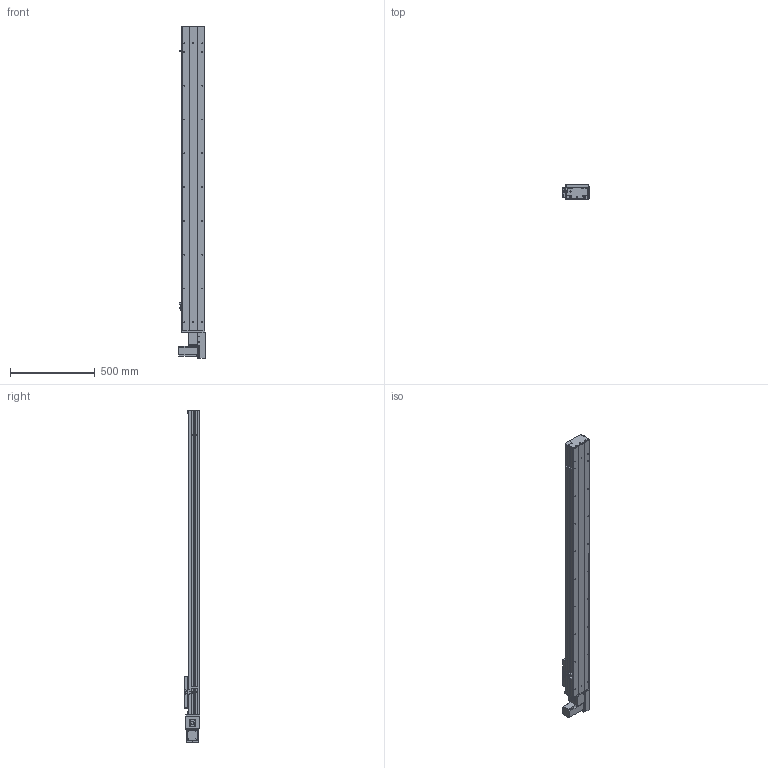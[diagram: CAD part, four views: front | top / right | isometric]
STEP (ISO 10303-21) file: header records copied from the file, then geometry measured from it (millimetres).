
FILE_DESCRIPTION (( 'STEP AP203' ), '1' );
FILE_NAME ('Y135CB-D90-S1500-BL-P400W.STEP', '2020-02-18T01:19:32', ( '微软用户' ), ( '微软中国' ), 'SwSTEP 2.0', 'SolidWorks 2017', '' );
FILE_SCHEMA (( 'CONFIG_CONTROL_DESIGN' ));
Length unit declared in the file: millimetre
Products named in the file (18): C-詩湍揤踡え-陔; 135CB---遴掛极.-; 135CB--詩湍-CE; Y10B-耜蚾蟀諉啣----; 35CB---喘謫眊楊擘啣; Y100-135俋离換覜ん--; Y俋欶BR----; Y10B--々湍喘謫眊--666; Y135C-陔俋离換覜結え-; 0B-埴倛裔啣; 5C--俋欶; 0B-源倛裔啣; C-雄赽釱--; 0B-萇儂楊擘啣; Y135CB-D90-S1500-BL-P400W; san松下电机400不带刹车----; 5CB --掛极耜裔啣-; Y135CB-耜裔
Assembly tree (21 placements, depth 2):
  Y135CB-D90-S1500-BL-P400W
    Y135CB-耜裔
    135CB---遴掛极.-
    35CB---喘謫眊楊擘啣
    Y10B--々湍喘謫眊--666
    Y10B-耜蚾蟀諉啣----
    Y俋欶BR----
    0B-埴倛裔啣
    0B-源倛裔啣
    0B-萇儂楊擘啣
    san松下电机400不带刹车----
    5CB --掛极耜裔啣-  x2
    C-詩湍揤踡え-陔  x2
    135CB--詩湍-CE
    Y100-135俋离換覜ん--  x3
    Y135C-陔俋离換覜結え-
    5C--俋欶
    C-雄赽釱--
Bounding box: 157.5 x 91 x 1964.5 mm (x, y, z)
Volume: 5685644.1 mm3; surface area: 2238638.4 mm2
Topology: 21 solids, 21 shells, 957 faces, 2581 edges, 1710 vertices
Faces by surface type: cylinder 483, plane 458, cone 16
Entity records: 29947 total; most frequent: DIRECTION 4973, CARTESIAN_POINT 4944, ORIENTED_EDGE 4638, EDGE_CURVE 2319, AXIS2_PLACEMENT_3D 1815, VERTEX_POINT 1538, VECTOR 1343, LINE 1343
